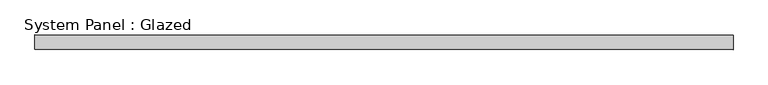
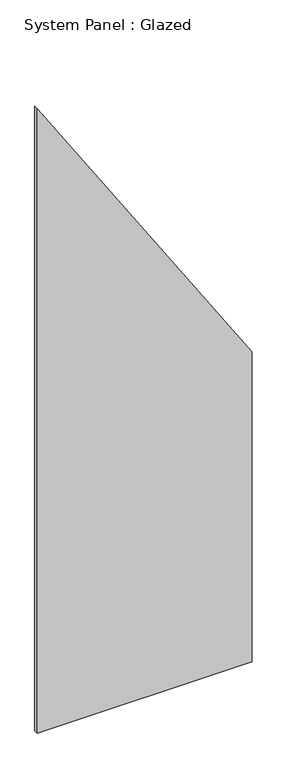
"""IFC4 building model written with IfcOpenShell, lengths in millimetres: plate geometry, System Panel : Glazed."""

from ifc_helpers import new_model, si_unit, frame, origin, place, context, project, spatial, polyline, outline, extrude, source, transform, mapped, element, save


def system_panel_glazed_a26fe342(model_context):
    return source(origin(), model_context, "Body", "SweptSolid", [
        extrude(outline(polyline([(0.0, -604.8481175), (0.0, 604.8481175), (1847.9808351, 604.8481175), (3718.9331685, -604.8481175), (0.0, -604.8481175)])), frame((0.0, -12.5, 0.0), z_axis=(0.0, 1.0, 0.0), x_axis=(0.0, 0.0, 1.0)), (0.0, 0.0, 1.0), 25.0),
    ])


if __name__ == "__main__":
    model = new_model("IFC4")
    model_context = context("Model", 3, world=origin())
    ifc_project = project(units=[si_unit("LENGTHUNIT", "METRE", prefix="MILLI")], contexts=[model_context])
    site = spatial("IfcSite", under=ifc_project)
    building = spatial("IfcBuilding", under=site)
    placement = place(None, origin())
    system_panel_glazed_shape = system_panel_glazed_a26fe342(model_context)
    element("IfcPlate", 1, ObjectType="System Panel : Glazed", at=placement, inside=building, context=model_context, shape_type="MappedRepresentation", body=[
        mapped(system_panel_glazed_shape, transform((0.0, 0.0, 0.0), x_axis=(1.0, 0.0, 0.0), y_axis=(0.0, 1.0, 0.0), z_axis=(0.0, 0.0, 1.0))),
    ])
    save(model, "model.ifc")
